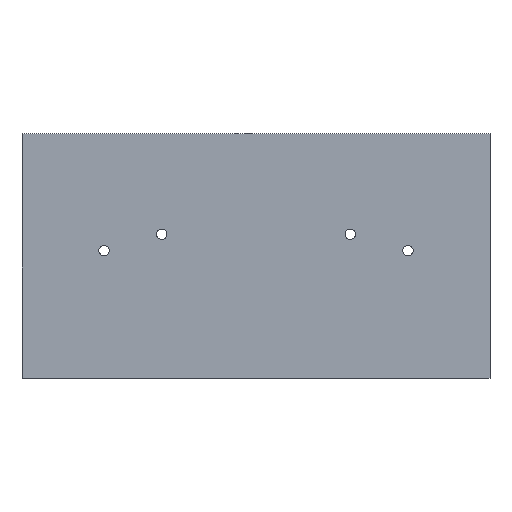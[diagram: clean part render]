
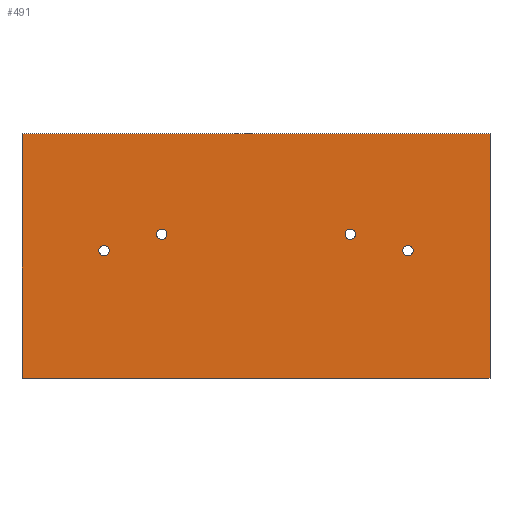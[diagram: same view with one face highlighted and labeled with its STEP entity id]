
A CAD part, top view. The second image highlights one B-rep face of the part: STEP entity #491.
In plain terms, the highlighted planar face has unit normal (0, 0, 1).
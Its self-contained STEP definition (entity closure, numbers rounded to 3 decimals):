
#24 = VERTEX_POINT('',#25);
#25 = CARTESIAN_POINT('',(146.,-2.,197.));
#32 = PLANE('',#33);
#33 = AXIS2_PLACEMENT_3D('',#34,#35,#36);
#34 = CARTESIAN_POINT('',(146.,-2.,194.));
#35 = DIRECTION('',(-1.,-0.,-0.));
#36 = DIRECTION('',(0.,0.,-1.));
#44 = PLANE('',#45);
#45 = AXIS2_PLACEMENT_3D('',#46,#47,#48);
#46 = CARTESIAN_POINT('',(146.,-2.,194.));
#47 = DIRECTION('',(-0.,1.,-0.));
#48 = DIRECTION('',(0.,0.,-1.));
#85 = VERTEX_POINT('',#86);
#86 = CARTESIAN_POINT('',(146.,78.5,197.));
#100 = PLANE('',#101);
#101 = AXIS2_PLACEMENT_3D('',#102,#103,#104);
#102 = CARTESIAN_POINT('',(146.,78.5,194.));
#103 = DIRECTION('',(-0.,1.,-0.));
#104 = DIRECTION('',(0.,0.,-1.));
#112 = EDGE_CURVE('',#24,#85,#113,.T.);
#113 = SURFACE_CURVE('',#114,(#118,#125),.PCURVE_S1.);
#114 = LINE('',#115,#116);
#115 = CARTESIAN_POINT('',(146.,-2.,197.));
#116 = VECTOR('',#117,1.);
#117 = DIRECTION('',(-0.,1.,0.));
#118 = PCURVE('',#32,#119);
#119 = DEFINITIONAL_REPRESENTATION('',(#120),#124);
#120 = LINE('',#121,#122);
#121 = CARTESIAN_POINT('',(-3.,-0.));
#122 = VECTOR('',#123,1.);
#123 = DIRECTION('',(-0.,-1.));
#124 = ( GEOMETRIC_REPRESENTATION_CONTEXT(2) 
PARAMETRIC_REPRESENTATION_CONTEXT() REPRESENTATION_CONTEXT('2D SPACE',''
  ) );
#125 = PCURVE('',#126,#131);
#126 = PLANE('',#127);
#127 = AXIS2_PLACEMENT_3D('',#128,#129,#130);
#128 = CARTESIAN_POINT('',(146.,-2.,197.));
#129 = DIRECTION('',(0.,0.,1.));
#130 = DIRECTION('',(1.,0.,0.));
#131 = DEFINITIONAL_REPRESENTATION('',(#132),#136);
#132 = LINE('',#133,#134);
#133 = CARTESIAN_POINT('',(0.,-0.));
#134 = VECTOR('',#135,1.);
#135 = DIRECTION('',(-0.,1.));
#136 = ( GEOMETRIC_REPRESENTATION_CONTEXT(2) 
PARAMETRIC_REPRESENTATION_CONTEXT() REPRESENTATION_CONTEXT('2D SPACE',''
  ) );
#221 = EDGE_CURVE('',#24,#222,#224,.T.);
#222 = VERTEX_POINT('',#223);
#223 = CARTESIAN_POINT('',(-8.,-2.,197.));
#224 = SURFACE_CURVE('',#225,(#229,#236),.PCURVE_S1.);
#225 = LINE('',#226,#227);
#226 = CARTESIAN_POINT('',(146.,-2.,197.));
#227 = VECTOR('',#228,1.);
#228 = DIRECTION('',(-1.,-0.,0.));
#229 = PCURVE('',#44,#230);
#230 = DEFINITIONAL_REPRESENTATION('',(#231),#235);
#231 = LINE('',#232,#233);
#232 = CARTESIAN_POINT('',(-3.,-0.));
#233 = VECTOR('',#234,1.);
#234 = DIRECTION('',(-0.,1.));
#235 = ( GEOMETRIC_REPRESENTATION_CONTEXT(2) 
PARAMETRIC_REPRESENTATION_CONTEXT() REPRESENTATION_CONTEXT('2D SPACE',''
  ) );
#236 = PCURVE('',#126,#237);
#237 = DEFINITIONAL_REPRESENTATION('',(#238),#242);
#238 = LINE('',#239,#240);
#239 = CARTESIAN_POINT('',(0.,-0.));
#240 = VECTOR('',#241,1.);
#241 = DIRECTION('',(-1.,0.));
#242 = ( GEOMETRIC_REPRESENTATION_CONTEXT(2) 
PARAMETRIC_REPRESENTATION_CONTEXT() REPRESENTATION_CONTEXT('2D SPACE',''
  ) );
#260 = PLANE('',#261);
#261 = AXIS2_PLACEMENT_3D('',#262,#263,#264);
#262 = CARTESIAN_POINT('',(-8.,-2.,194.));
#263 = DIRECTION('',(-1.,-0.,-0.));
#264 = DIRECTION('',(0.,0.,-1.));
#446 = EDGE_CURVE('',#85,#447,#449,.T.);
#447 = VERTEX_POINT('',#448);
#448 = CARTESIAN_POINT('',(-8.,78.5,197.));
#449 = SURFACE_CURVE('',#450,(#454,#461),.PCURVE_S1.);
#450 = LINE('',#451,#452);
#451 = CARTESIAN_POINT('',(146.,78.5,197.));
#452 = VECTOR('',#453,1.);
#453 = DIRECTION('',(-1.,-0.,0.));
#454 = PCURVE('',#100,#455);
#455 = DEFINITIONAL_REPRESENTATION('',(#456),#460);
#456 = LINE('',#457,#458);
#457 = CARTESIAN_POINT('',(-3.,-0.));
#458 = VECTOR('',#459,1.);
#459 = DIRECTION('',(-0.,1.));
#460 = ( GEOMETRIC_REPRESENTATION_CONTEXT(2) 
PARAMETRIC_REPRESENTATION_CONTEXT() REPRESENTATION_CONTEXT('2D SPACE',''
  ) );
#461 = PCURVE('',#126,#462);
#462 = DEFINITIONAL_REPRESENTATION('',(#463),#467);
#463 = LINE('',#464,#465);
#464 = CARTESIAN_POINT('',(0.,80.5));
#465 = VECTOR('',#466,1.);
#466 = DIRECTION('',(-1.,0.));
#467 = ( GEOMETRIC_REPRESENTATION_CONTEXT(2) 
PARAMETRIC_REPRESENTATION_CONTEXT() REPRESENTATION_CONTEXT('2D SPACE',''
  ) );
#491 = ADVANCED_FACE('',(#492,#518,#549,#580,#611),#126,.T.);
#492 = FACE_BOUND('',#493,.F.);
#493 = EDGE_LOOP('',(#494,#495,#496,#517));
#494 = ORIENTED_EDGE('',*,*,#112,.F.);
#495 = ORIENTED_EDGE('',*,*,#221,.T.);
#496 = ORIENTED_EDGE('',*,*,#497,.T.);
#497 = EDGE_CURVE('',#222,#447,#498,.T.);
#498 = SURFACE_CURVE('',#499,(#503,#510),.PCURVE_S1.);
#499 = LINE('',#500,#501);
#500 = CARTESIAN_POINT('',(-8.,-2.,197.));
#501 = VECTOR('',#502,1.);
#502 = DIRECTION('',(-0.,1.,0.));
#503 = PCURVE('',#126,#504);
#504 = DEFINITIONAL_REPRESENTATION('',(#505),#509);
#505 = LINE('',#506,#507);
#506 = CARTESIAN_POINT('',(-154.,0.));
#507 = VECTOR('',#508,1.);
#508 = DIRECTION('',(-0.,1.));
#509 = ( GEOMETRIC_REPRESENTATION_CONTEXT(2) 
PARAMETRIC_REPRESENTATION_CONTEXT() REPRESENTATION_CONTEXT('2D SPACE',''
  ) );
#510 = PCURVE('',#260,#511);
#511 = DEFINITIONAL_REPRESENTATION('',(#512),#516);
#512 = LINE('',#513,#514);
#513 = CARTESIAN_POINT('',(-3.,-0.));
#514 = VECTOR('',#515,1.);
#515 = DIRECTION('',(-0.,-1.));
#516 = ( GEOMETRIC_REPRESENTATION_CONTEXT(2) 
PARAMETRIC_REPRESENTATION_CONTEXT() REPRESENTATION_CONTEXT('2D SPACE',''
  ) );
#517 = ORIENTED_EDGE('',*,*,#446,.F.);
#518 = FACE_BOUND('',#519,.F.);
#519 = EDGE_LOOP('',(#520));
#520 = ORIENTED_EDGE('',*,*,#521,.T.);
#521 = EDGE_CURVE('',#522,#522,#524,.T.);
#522 = VERTEX_POINT('',#523);
#523 = CARTESIAN_POINT('',(117.3,40.,197.));
#524 = SURFACE_CURVE('',#525,(#530,#537),.PCURVE_S1.);
#525 = CIRCLE('',#526,1.7);
#526 = AXIS2_PLACEMENT_3D('',#527,#528,#529);
#527 = CARTESIAN_POINT('',(119.,40.,197.));
#528 = DIRECTION('',(0.,0.,1.));
#529 = DIRECTION('',(-1.,-0.,-0.));
#530 = PCURVE('',#126,#531);
#531 = DEFINITIONAL_REPRESENTATION('',(#532),#536);
#532 = CIRCLE('',#533,1.7);
#533 = AXIS2_PLACEMENT_2D('',#534,#535);
#534 = CARTESIAN_POINT('',(-27.,42.));
#535 = DIRECTION('',(-1.,0.));
#536 = ( GEOMETRIC_REPRESENTATION_CONTEXT(2) 
PARAMETRIC_REPRESENTATION_CONTEXT() REPRESENTATION_CONTEXT('2D SPACE',''
  ) );
#537 = PCURVE('',#538,#543);
#538 = CYLINDRICAL_SURFACE('',#539,1.7);
#539 = AXIS2_PLACEMENT_3D('',#540,#541,#542);
#540 = CARTESIAN_POINT('',(119.,40.,185.));
#541 = DIRECTION('',(0.,-0.,-1.));
#542 = DIRECTION('',(-1.,-0.,-0.));
#543 = DEFINITIONAL_REPRESENTATION('',(#544),#548);
#544 = LINE('',#545,#546);
#545 = CARTESIAN_POINT('',(6.283,-12.));
#546 = VECTOR('',#547,1.);
#547 = DIRECTION('',(-1.,0.));
#548 = ( GEOMETRIC_REPRESENTATION_CONTEXT(2) 
PARAMETRIC_REPRESENTATION_CONTEXT() REPRESENTATION_CONTEXT('2D SPACE',''
  ) );
#549 = FACE_BOUND('',#550,.F.);
#550 = EDGE_LOOP('',(#551));
#551 = ORIENTED_EDGE('',*,*,#552,.T.);
#552 = EDGE_CURVE('',#553,#553,#555,.T.);
#553 = VERTEX_POINT('',#554);
#554 = CARTESIAN_POINT('',(17.3,40.,197.));
#555 = SURFACE_CURVE('',#556,(#561,#568),.PCURVE_S1.);
#556 = CIRCLE('',#557,1.7);
#557 = AXIS2_PLACEMENT_3D('',#558,#559,#560);
#558 = CARTESIAN_POINT('',(19.,40.,197.));
#559 = DIRECTION('',(0.,0.,1.));
#560 = DIRECTION('',(-1.,-0.,-0.));
#561 = PCURVE('',#126,#562);
#562 = DEFINITIONAL_REPRESENTATION('',(#563),#567);
#563 = CIRCLE('',#564,1.7);
#564 = AXIS2_PLACEMENT_2D('',#565,#566);
#565 = CARTESIAN_POINT('',(-127.,42.));
#566 = DIRECTION('',(-1.,0.));
#567 = ( GEOMETRIC_REPRESENTATION_CONTEXT(2) 
PARAMETRIC_REPRESENTATION_CONTEXT() REPRESENTATION_CONTEXT('2D SPACE',''
  ) );
#568 = PCURVE('',#569,#574);
#569 = CYLINDRICAL_SURFACE('',#570,1.7);
#570 = AXIS2_PLACEMENT_3D('',#571,#572,#573);
#571 = CARTESIAN_POINT('',(19.,40.,185.));
#572 = DIRECTION('',(0.,-0.,-1.));
#573 = DIRECTION('',(-1.,-0.,-0.));
#574 = DEFINITIONAL_REPRESENTATION('',(#575),#579);
#575 = LINE('',#576,#577);
#576 = CARTESIAN_POINT('',(6.283,-12.));
#577 = VECTOR('',#578,1.);
#578 = DIRECTION('',(-1.,0.));
#579 = ( GEOMETRIC_REPRESENTATION_CONTEXT(2) 
PARAMETRIC_REPRESENTATION_CONTEXT() REPRESENTATION_CONTEXT('2D SPACE',''
  ) );
#580 = FACE_BOUND('',#581,.F.);
#581 = EDGE_LOOP('',(#582));
#582 = ORIENTED_EDGE('',*,*,#583,.T.);
#583 = EDGE_CURVE('',#584,#584,#586,.T.);
#584 = VERTEX_POINT('',#585);
#585 = CARTESIAN_POINT('',(98.3,45.385,197.));
#586 = SURFACE_CURVE('',#587,(#592,#599),.PCURVE_S1.);
#587 = CIRCLE('',#588,1.7);
#588 = AXIS2_PLACEMENT_3D('',#589,#590,#591);
#589 = CARTESIAN_POINT('',(100.,45.385,197.));
#590 = DIRECTION('',(0.,0.,1.));
#591 = DIRECTION('',(-1.,-0.,-0.));
#592 = PCURVE('',#126,#593);
#593 = DEFINITIONAL_REPRESENTATION('',(#594),#598);
#594 = CIRCLE('',#595,1.7);
#595 = AXIS2_PLACEMENT_2D('',#596,#597);
#596 = CARTESIAN_POINT('',(-46.,47.385));
#597 = DIRECTION('',(-1.,0.));
#598 = ( GEOMETRIC_REPRESENTATION_CONTEXT(2) 
PARAMETRIC_REPRESENTATION_CONTEXT() REPRESENTATION_CONTEXT('2D SPACE',''
  ) );
#599 = PCURVE('',#600,#605);
#600 = CYLINDRICAL_SURFACE('',#601,1.7);
#601 = AXIS2_PLACEMENT_3D('',#602,#603,#604);
#602 = CARTESIAN_POINT('',(100.,45.385,193.));
#603 = DIRECTION('',(0.,-0.,-1.));
#604 = DIRECTION('',(-1.,-0.,-0.));
#605 = DEFINITIONAL_REPRESENTATION('',(#606),#610);
#606 = LINE('',#607,#608);
#607 = CARTESIAN_POINT('',(6.283,-4.));
#608 = VECTOR('',#609,1.);
#609 = DIRECTION('',(-1.,0.));
#610 = ( GEOMETRIC_REPRESENTATION_CONTEXT(2) 
PARAMETRIC_REPRESENTATION_CONTEXT() REPRESENTATION_CONTEXT('2D SPACE',''
  ) );
#611 = FACE_BOUND('',#612,.F.);
#612 = EDGE_LOOP('',(#613));
#613 = ORIENTED_EDGE('',*,*,#614,.T.);
#614 = EDGE_CURVE('',#615,#615,#617,.T.);
#615 = VERTEX_POINT('',#616);
#616 = CARTESIAN_POINT('',(36.3,45.385,197.));
#617 = SURFACE_CURVE('',#618,(#623,#630),.PCURVE_S1.);
#618 = CIRCLE('',#619,1.7);
#619 = AXIS2_PLACEMENT_3D('',#620,#621,#622);
#620 = CARTESIAN_POINT('',(38.,45.385,197.));
#621 = DIRECTION('',(0.,0.,1.));
#622 = DIRECTION('',(-1.,-0.,-0.));
#623 = PCURVE('',#126,#624);
#624 = DEFINITIONAL_REPRESENTATION('',(#625),#629);
#625 = CIRCLE('',#626,1.7);
#626 = AXIS2_PLACEMENT_2D('',#627,#628);
#627 = CARTESIAN_POINT('',(-108.,47.385));
#628 = DIRECTION('',(-1.,0.));
#629 = ( GEOMETRIC_REPRESENTATION_CONTEXT(2) 
PARAMETRIC_REPRESENTATION_CONTEXT() REPRESENTATION_CONTEXT('2D SPACE',''
  ) );
#630 = PCURVE('',#631,#636);
#631 = CYLINDRICAL_SURFACE('',#632,1.7);
#632 = AXIS2_PLACEMENT_3D('',#633,#634,#635);
#633 = CARTESIAN_POINT('',(38.,45.385,193.));
#634 = DIRECTION('',(0.,-0.,-1.));
#635 = DIRECTION('',(-1.,-0.,-0.));
#636 = DEFINITIONAL_REPRESENTATION('',(#637),#641);
#637 = LINE('',#638,#639);
#638 = CARTESIAN_POINT('',(6.283,-4.));
#639 = VECTOR('',#640,1.);
#640 = DIRECTION('',(-1.,0.));
#641 = ( GEOMETRIC_REPRESENTATION_CONTEXT(2) 
PARAMETRIC_REPRESENTATION_CONTEXT() REPRESENTATION_CONTEXT('2D SPACE',''
  ) );
